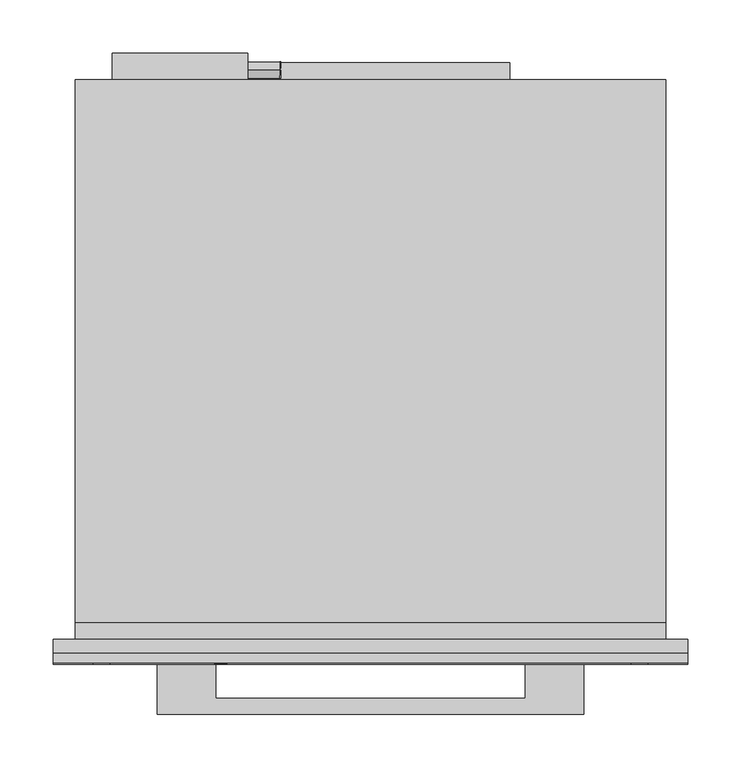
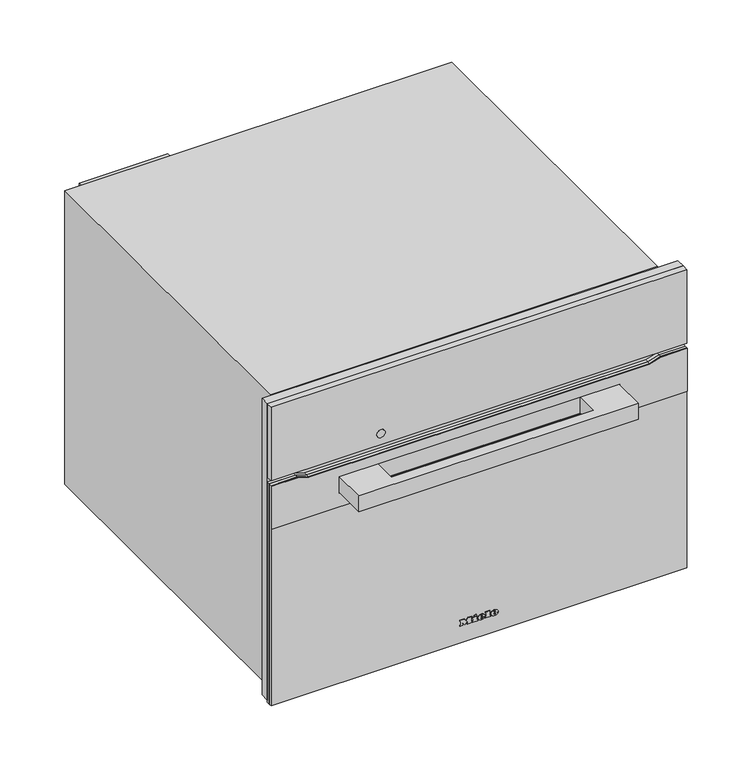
"""IFC4 building model written with IfcOpenShell, lengths in millimetres: proxy geometry, 11111220_CH_H7840BM_EDST-CLST : 22784046_CH_11111220_H7840BM_EDST-CLST."""

from ifc_helpers import new_model, si_unit, point, frame, frame_2d, origin, place, context, project, spatial, polyline, circle_curve, ellipse_curve, trimmed, segment, composite_curve, outline, extrude, faceted_brep, source, transform, mapped, element, save
from ifc_brep_helpers import plane_surface, cylinder_surface, revolved_surface, extruded_surface, advanced_brep


def specialty_equipment_4e50e9d8(model_context):
    return source(origin(), model_context, "Body", "SolidModel", [
        advanced_brep(
        [(21.28, -23.0, 32.133), (21.28, -23.0, 33.042), (27.301, -23.0, 33.042), (16.825, -23.0, 33.042), (19.3, -23.0, 30.0), (27.148, -23.0, 32.133), (24.43, -23.0, 32.133), (22.288, -23.0, 31.125), (21.28, -23.0, 34.194), (21.28, -23.0, 35.175), (22.819, -23.0, 35.175), (22.819, -23.0, 34.194), (21.28, -22.0, 32.133), (22.288, -22.0, 31.125), (24.43, -22.0, 32.133), (27.148, -22.0, 32.133), (19.3, -22.0, 30.0), (16.825, -22.0, 33.042), (27.301, -22.0, 33.042), (21.28, -22.0, 33.042), (21.28, -22.0, 34.194), (22.819, -22.0, 34.194), (22.819, -22.0, 35.175), (21.28, -22.0, 35.175)],
        [
            (0, 1),
            (1, 2),
            (2, 3, ellipse_curve(frame((22.063, -23.0, 33.042), z_axis=(0.0, -1.0, 0.0), x_axis=(-1.0, 0.0, 0.0)), 5.238, 4.329)),
            (3, 4, circle_curve(frame((20.3080491, -23.0, 33.348), z_axis=(0.0, -1.0, 0.0), x_axis=(0.0, 0.0, -1.0)), 3.4964649)),
            (4, 5, circle_curve(frame((21.9581428, -23.0, 35.724), z_axis=(0.0, -1.0, 0.0), x_axis=(0.0, 0.0, -1.0)), 6.3110933)),
            (5, 6),
            (6, 7, circle_curve(frame((22.7279412, -23.0, 32.97), z_axis=(0.0, 1.0, 0.0), x_axis=(0.0, 0.0, -1.0)), 1.896727)),
            (7, 0, circle_curve(frame((22.288, -23.0, 32.133), z_axis=(0.0, 1.0, 0.0), x_axis=(0.0, 0.0, -1.0)), 1.008)),
            (8, 9),
            (9, 10, circle_curve(frame((22.0495, -23.0, 35.175), z_axis=(0.0, 1.0, 0.0), x_axis=(0.0, 0.0, -1.0)), 0.7695)),
            (10, 11),
            (11, 8),
            (12, 13, circle_curve(frame((22.288, -22.0, 32.133), z_axis=(0.0, -1.0, 0.0), x_axis=(0.0, 0.0, -1.0)), 1.008)),
            (13, 14, circle_curve(frame((22.7279412, -22.0, 32.97), z_axis=(0.0, -1.0, 0.0), x_axis=(0.0, 0.0, -1.0)), 1.896727)),
            (14, 15),
            (15, 16, circle_curve(frame((21.9581428, -22.0, 35.724), z_axis=(0.0, 1.0, 0.0), x_axis=(0.0, 0.0, -1.0)), 6.3110933)),
            (16, 17, circle_curve(frame((20.3080491, -22.0, 33.348), z_axis=(0.0, 1.0, 0.0), x_axis=(0.0, 0.0, -1.0)), 3.4964649)),
            (17, 18, ellipse_curve(frame((22.063, -22.0, 33.042), z_axis=(0.0, 1.0, 0.0), x_axis=(-1.0, 0.0, 0.0)), 5.238, 4.329)),
            (18, 19),
            (19, 12),
            (20, 21),
            (21, 22),
            (22, 23, circle_curve(frame((22.0495, -22.0, 35.175), z_axis=(0.0, -1.0, 0.0), x_axis=(0.0, 0.0, -1.0)), 0.7695)),
            (23, 20),
            (0, 12),
            (19, 1),
            (18, 2),
            (5, 15),
            (14, 6),
            (17, 3),
            (13, 7),
            (16, 4),
            (8, 20),
            (23, 9),
            (22, 10),
            (21, 11),
        ],
        [
            plane_surface(frame((21.28, -23.0, 33.042), z_axis=(0.0, -1.0, 0.0), x_axis=(0.0, 0.0, 1.0))),
            plane_surface(frame((21.28, -22.0, 33.042), z_axis=(0.0, 1.0, 0.0), x_axis=(0.0, 0.0, -1.0))),
            plane_surface(frame((21.28, -23.0, 32.133), z_axis=(1.0, 0.0, 0.0), x_axis=(0.0, 1.0, 0.0))),
            plane_surface(frame((21.28, -23.0, 33.042), z_axis=(0.0, 0.0, -1.0), x_axis=(0.0, 1.0, 0.0))),
            plane_surface(frame((27.148, -23.0, 32.133), z_axis=(0.0, 0.0, 1.0), x_axis=(0.0, 1.0, 0.0))),
            extruded_surface(trimmed(ellipse_curve(frame((22.063, -21.0, 33.042), z_axis=(0.0, -1.0, 0.0), x_axis=(-1.0, 0.0, 0.0)), 5.238, 4.329), [point((27.301, -21.0, 33.042))], [point((16.825, -21.0, 33.042))], True, "CARTESIAN"), (0.0, -1.0, 0.0), 1.0),
            revolved_surface(polyline([(22.7279412, -22.0, 31.073273), (22.7279412, -23.0, 31.073273)]), (22.7279412, -22.0, 32.97), (0.0, 1.0, 0.0)),
            revolved_surface(polyline([(22.288, -22.0, 31.125000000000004), (22.288, -23.0, 31.125000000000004)]), (22.288, -22.0, 32.133), (0.0, 1.0, 0.0)),
            cylinder_surface(frame((20.3080491, -22.0, 33.348), z_axis=(0.0, -1.0, 0.0), x_axis=(0.0, 0.0, -1.0)), 3.4964649),
            cylinder_surface(frame((21.9581428, -22.0, 35.724), z_axis=(0.0, -1.0, 0.0), x_axis=(0.0, 0.0, -1.0)), 6.3110933),
            plane_surface(frame((21.28, -23.0, 34.194), z_axis=(1.0, 0.0, 0.0), x_axis=(0.0, 1.0, 0.0))),
            revolved_surface(polyline([(22.0495, -22.0, 34.405499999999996), (22.0495, -23.0, 34.405499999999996)]), (22.0495, -22.0, 35.175), (0.0, 1.0, 0.0)),
            plane_surface(frame((22.819, -23.0, 35.175), z_axis=(-1.0, 0.0, 0.0), x_axis=(0.0, 1.0, 0.0))),
            plane_surface(frame((22.819, -23.0, 34.194), z_axis=(0.0, 0.0, 1.0), x_axis=(0.0, 1.0, 0.0))),
        ],
        [
            (0, [[1, 2, 3, 4, 5, 6, 7, 8], [9, 10, 11, 12]]),
            (1, [[13, 14, 15, 16, 17, 18, 19, 20], [21, 22, 23, 24]]),
            (2, [[-1, 25, -20, 26]]),
            (3, [[-2, -26, -19, 27]]),
            (4, [[-6, 28, -15, 29]]),
            (5, [[-3, -27, -18, 30]]),
            (6, [[-7, -29, -14, 31]]),
            (7, [[-8, -31, -13, -25]]),
            (8, [[-4, -30, -17, 32]]),
            (9, [[-5, -32, -16, -28]]),
            (10, [[-9, 33, -24, 34]]),
            (11, [[-10, -34, -23, 35]]),
            (12, [[-11, -35, -22, 36]]),
            (13, [[-12, -36, -21, -33]]),
        ],
    ),
        advanced_brep(
        [(2.497, -23.0, 32.133), (2.497, -23.0, 33.042), (8.518, -23.0, 33.042), (-1.958, -23.0, 33.042), (0.517, -23.0, 30.0), (8.365, -23.0, 32.133), (5.647, -23.0, 32.133), (3.505, -23.0, 31.125), (2.497, -23.0, 34.194), (2.497, -23.0, 35.175), (4.036, -23.0, 35.175), (4.036, -23.0, 34.194), (2.497, -22.0, 32.133), (3.505, -22.0, 31.125), (5.647, -22.0, 32.133), (8.365, -22.0, 32.133), (0.517, -22.0, 30.0), (-1.958, -22.0, 33.042), (8.518, -22.0, 33.042), (2.497, -22.0, 33.042), (2.497, -22.0, 34.194), (4.036, -22.0, 34.194), (4.036, -22.0, 35.175), (2.497, -22.0, 35.175)],
        [
            (0, 1),
            (1, 2),
            (2, 3, ellipse_curve(frame((3.28, -23.0, 33.042), z_axis=(0.0, -1.0, 0.0), x_axis=(-1.0, 0.0, 0.0)), 5.238, 4.329)),
            (3, 4, circle_curve(frame((1.5250491, -23.0, 33.348), z_axis=(0.0, -1.0, 0.0), x_axis=(0.0, 0.0, -1.0)), 3.4964649)),
            (4, 5, circle_curve(frame((3.1751428, -23.0, 35.724), z_axis=(0.0, -1.0, 0.0), x_axis=(0.0, 0.0, -1.0)), 6.3110933)),
            (5, 6),
            (6, 7, circle_curve(frame((3.9449412, -23.0, 32.97), z_axis=(0.0, 1.0, 0.0), x_axis=(0.0, 0.0, -1.0)), 1.896727)),
            (7, 0, circle_curve(frame((3.505, -23.0, 32.133), z_axis=(0.0, 1.0, 0.0), x_axis=(0.0, 0.0, -1.0)), 1.008)),
            (8, 9),
            (9, 10, circle_curve(frame((3.2665, -23.0, 35.175), z_axis=(0.0, 1.0, 0.0), x_axis=(0.0, 0.0, -1.0)), 0.7695)),
            (10, 11),
            (11, 8),
            (12, 13, circle_curve(frame((3.505, -22.0, 32.133), z_axis=(0.0, -1.0, 0.0), x_axis=(0.0, 0.0, -1.0)), 1.008)),
            (13, 14, circle_curve(frame((3.9449412, -22.0, 32.97), z_axis=(0.0, -1.0, 0.0), x_axis=(0.0, 0.0, -1.0)), 1.896727)),
            (14, 15),
            (15, 16, circle_curve(frame((3.1751428, -22.0, 35.724), z_axis=(0.0, 1.0, 0.0), x_axis=(0.0, 0.0, -1.0)), 6.3110933)),
            (16, 17, circle_curve(frame((1.5250491, -22.0, 33.348), z_axis=(0.0, 1.0, 0.0), x_axis=(0.0, 0.0, -1.0)), 3.4964649)),
            (17, 18, ellipse_curve(frame((3.28, -22.0, 33.042), z_axis=(0.0, 1.0, 0.0), x_axis=(-1.0, 0.0, 0.0)), 5.238, 4.329)),
            (18, 19),
            (19, 12),
            (20, 21),
            (21, 22),
            (22, 23, circle_curve(frame((3.2665, -22.0, 35.175), z_axis=(0.0, -1.0, 0.0), x_axis=(0.0, 0.0, -1.0)), 0.7695)),
            (23, 20),
            (0, 12),
            (19, 1),
            (18, 2),
            (5, 15),
            (14, 6),
            (17, 3),
            (13, 7),
            (16, 4),
            (8, 20),
            (23, 9),
            (22, 10),
            (21, 11),
        ],
        [
            plane_surface(frame((2.497, -23.0, 33.042), z_axis=(0.0, -1.0, 0.0), x_axis=(0.0, 0.0, 1.0))),
            plane_surface(frame((2.497, -22.0, 33.042), z_axis=(0.0, 1.0, 0.0), x_axis=(0.0, 0.0, -1.0))),
            plane_surface(frame((2.497, -23.0, 32.133), z_axis=(1.0, 0.0, 0.0), x_axis=(0.0, 1.0, 0.0))),
            plane_surface(frame((2.497, -23.0, 33.042), z_axis=(0.0, 0.0, -1.0), x_axis=(0.0, 1.0, 0.0))),
            plane_surface(frame((8.365, -23.0, 32.133), z_axis=(0.0, 0.0, 1.0), x_axis=(0.0, 1.0, 0.0))),
            extruded_surface(trimmed(ellipse_curve(frame((3.28, -21.0, 33.042), z_axis=(0.0, -1.0, 0.0), x_axis=(-1.0, 0.0, 0.0)), 5.238, 4.329), [point((8.518, -21.0, 33.042))], [point((-1.958, -21.0, 33.042))], True, "CARTESIAN"), (0.0, -1.0, 0.0), 1.0),
            revolved_surface(polyline([(3.9449412, -22.0, 31.073273), (3.9449412, -23.0, 31.073273)]), (3.9449412, -22.0, 32.97), (0.0, 1.0, 0.0)),
            revolved_surface(polyline([(3.505, -22.0, 31.125000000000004), (3.505, -23.0, 31.125000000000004)]), (3.505, -22.0, 32.133), (0.0, 1.0, 0.0)),
            cylinder_surface(frame((1.5250491, -22.0, 33.348), z_axis=(0.0, -1.0, 0.0), x_axis=(0.0, 0.0, -1.0)), 3.4964649),
            cylinder_surface(frame((3.1751428, -22.0, 35.724), z_axis=(0.0, -1.0, 0.0), x_axis=(0.0, 0.0, -1.0)), 6.3110933),
            plane_surface(frame((2.497, -23.0, 34.194), z_axis=(1.0, 0.0, 0.0), x_axis=(0.0, 1.0, 0.0))),
            revolved_surface(polyline([(3.2665, -22.0, 34.405499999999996), (3.2665, -23.0, 34.405499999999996)]), (3.2665, -22.0, 35.175), (0.0, 1.0, 0.0)),
            plane_surface(frame((4.036, -23.0, 35.175), z_axis=(-1.0, 0.0, 0.0), x_axis=(0.0, 1.0, 0.0))),
            plane_surface(frame((4.036, -23.0, 34.194), z_axis=(0.0, 0.0, 1.0), x_axis=(0.0, 1.0, 0.0))),
        ],
        [
            (0, [[1, 2, 3, 4, 5, 6, 7, 8], [9, 10, 11, 12]]),
            (1, [[13, 14, 15, 16, 17, 18, 19, 20], [21, 22, 23, 24]]),
            (2, [[-1, 25, -20, 26]]),
            (3, [[-2, -26, -19, 27]]),
            (4, [[-6, 28, -15, 29]]),
            (5, [[-3, -27, -18, 30]]),
            (6, [[-7, -29, -14, 31]]),
            (7, [[-8, -31, -13, -25]]),
            (8, [[-4, -30, -17, 32]]),
            (9, [[-5, -32, -16, -28]]),
            (10, [[-9, 33, -24, 34]]),
            (11, [[-10, -34, -23, 35]]),
            (12, [[-11, -35, -22, 36]]),
            (13, [[-12, -36, -21, -33]]),
        ],
    ),
        extrude(outline(polyline([(38.469, -7.34), (37.011, -6.656), (38.433, -3.605), (39.891, -4.28), (38.469, -7.34)])), frame((0.0, -23.0, 0.0), z_axis=(0.0, 1.0, 0.0), x_axis=(0.0, 0.0, 1.0)), (0.0, 0.0, 1.0), 1.0),
        extrude(outline(polyline([(36.813, -9.563), (35.202, -9.563), (35.202, -8.492), (31.512, -8.492), (31.512, -9.563), (30.0, -9.563), (30.0, -2.462), (31.512, -2.462), (31.512, -3.506), (36.813, -3.506), (36.813, -9.563)])), frame((0.0, -23.0, 0.0), z_axis=(0.0, 1.0, 0.0), x_axis=(0.0, 0.0, 1.0)), (0.0, 0.0, 1.0), 1.0),
        extrude(outline(polyline([(37.533, 9.022), (37.533, 10.102), (31.512, 10.102), (31.512, 9.022), (30.0, 9.022), (30.0, 16.321), (31.512, 16.321), (31.512, 15.214), (39.0, 15.214), (39.0, 9.022), (37.533, 9.022)])), frame((0.0, -23.0, 0.0), z_axis=(0.0, 1.0, 0.0), x_axis=(0.0, 0.0, 1.0)), (0.0, 0.0, 1.0), 1.0),
        extrude(outline(polyline([(37.533, -27.5), (37.533, -26.411), (31.512, -26.411), (31.512, -27.5), (30.0, -27.5), (30.0, -23.54), (31.512, -23.54), (31.512, -24.62), (35.3341247, -24.62), (30.0, -20.597), (35.4402223, -16.556), (31.512, -16.556), (31.512, -17.663), (30.0, -17.663), (30.0, -10.481), (31.512, -10.481), (31.512, -11.624), (37.533, -11.624), (37.533, -10.481), (39.0, -10.481), (39.0, -15.962), (35.625, -18.59), (39.0, -21.227), (39.0, -27.5), (37.533, -27.5)])), frame((0.0, -23.0, 0.0), z_axis=(0.0, 1.0, 0.0), x_axis=(0.0, 0.0, 1.0)), (0.0, 0.0, 1.0), 1.0),
        extrude(outline(polyline([(-200.0, -70.3), (-200.0, -22.0), (-145.0, -22.0), (-145.0, -55.3), (145.0, -55.3), (145.0, -22.0), (200.0, -22.0), (200.0, -70.3), (-200.0, -70.3)])), frame((0.0, 0.0, 292.5), z_axis=(0.0, 0.0, 1.0), x_axis=(1.0, 0.0, 0.0)), (0.0, 0.0, 1.0), 24.0),
        extrude(outline(polyline([(337.0, -297.5), (4.0, -297.5), (4.0, 297.5), (337.0, 297.5), (337.0, 260.3542631), (332.0, 244.0), (332.0, -244.0), (337.0, -260.3542631), (337.0, -297.5)])), frame((0.0, -22.0, 0.0), z_axis=(0.0, 1.0, 0.0), x_axis=(0.0, 0.0, 1.0)), (0.0, 0.0, 1.0), 4.0),
        extrude(outline(polyline([(337.0, -297.5), (272.0, -297.5), (272.0, 297.5), (337.0, 297.5), (337.0, 260.3542631), (332.0, 244.0), (332.0, -244.0), (337.0, -260.3542631), (337.0, -297.5)]), holes=[polyline([(317.0, -200.5), (317.0, 200.5), (292.0, 200.5), (292.0, -200.5), (317.0, -200.5)])]), frame((0.0, -23.3, 0.0), z_axis=(0.0, 1.0, 0.0), x_axis=(0.0, 0.0, 1.0)), (0.0, 0.0, 1.0), 1.3),
        extrude(outline(polyline([(337.0, -297.5), (4.0, -297.5), (4.0, 297.5), (337.0, 297.5), (337.0, 260.3542631), (332.0, 244.0), (332.0, -244.0), (337.0, -260.3542631), (337.0, -297.5)])), frame((0.0, -18.0, 0.0), z_axis=(0.0, 1.0, 0.0), x_axis=(0.0, 0.0, 1.0)), (0.0, 0.0, 1.0), 5.0),
        extrude(outline(polyline([(297.5, -22.0), (-297.5, -22.0), (-297.5, -13.0), (297.5, -13.0), (297.5, -22.0)])), frame((0.0, 0.0, 344.0), z_axis=(0.0, 0.0, 1.0), x_axis=(1.0, 0.0, 0.0)), (0.0, 0.0, 1.0), 111.5),
        extrude(outline(composite_curve([segment(trimmed(circle_curve(frame_2d((361.0, -140.5745637)), 6.0), [point((361.0, -146.5745637))], [point((361.0, -134.5745637))], False, "CARTESIAN"), True, "CONTINUOUS"), segment(trimmed(circle_curve(frame_2d((361.0, -140.5745637)), 6.0), [point((361.0, -134.5745637))], [point((361.0, -146.5745637))], False, "CARTESIAN"), True, "CONTINUOUS")], self_intersect=False)), frame((0.0, -22.5, 0.0), z_axis=(0.0, 1.0, 0.0), x_axis=(0.0, 0.0, 1.0)), (0.0, 0.0, 1.0), 1.0),
        extrude(outline(polyline([(526.6176075, 348.0006785), (526.6176075, 358.0471554), (533.8434473, 358.0471554), (533.8434473, 356.7922128), (527.8818689, 356.7922128), (527.8818689, 353.8127064), (533.5308134, 353.8127064), (533.5308134, 352.551833), (527.8785103, 352.551833), (527.8785103, 349.2552921), (534.0086943, 349.2552921), (534.0086943, 348.0006785), (526.6176075, 348.0006785)])), frame((-85.0, 0.0, 0.0), z_axis=(1.0, 0.0, 0.0), x_axis=(0.0, 1.0, 0.0)), (0.0, 0.0, 1.0), 1.0),
        extrude(outline(polyline([(535.8834538, 348.0032098), (535.8834538, 358.0486697), (537.1384639, 358.0486697), (537.1384639, 349.2559157), (542.1633067, 349.2559157), (542.1633067, 348.0032098), (535.8834538, 348.0032098)])), frame((-85.0, 0.0, 0.0), z_axis=(1.0, 0.0, 0.0), x_axis=(0.0, 1.0, 0.0)), (0.0, 0.0, 1.0), 1.0),
        extrude(outline(composite_curve([segment(trimmed(circle_curve(frame_2d((534.0, 353.0)), 7.5), [point((534.0, 345.5))], [point((534.0, 360.5))], False, "CARTESIAN"), True, "CONTINUOUS"), segment(trimmed(circle_curve(frame_2d((534.0, 353.0)), 7.5), [point((534.0, 360.5))], [point((534.0, 345.5))], False, "CARTESIAN"), True, "CONTINUOUS")], self_intersect=False)), frame((-115.0, 0.0, 0.0), z_axis=(1.0, 0.0, 0.0), x_axis=(0.0, 1.0, 0.0)), (0.0, 0.0, 1.0), 30.0),
        extrude(outline(polyline([(-115.0, 525.0), (-242.0, 525.0), (-242.0, 550.0), (-115.0, 550.0), (-115.0, 525.0)])), frame((0.0, 0.0, 325.0), z_axis=(0.0, 0.0, 1.0), x_axis=(1.0, 0.0, 0.0)), (0.0, 0.0, 1.0), 103.0),
        extrude(outline(polyline([(130.5, 525.0), (-130.5, 525.0), (-130.5, 541.0), (130.5, 541.0), (130.5, 525.0)])), frame((0.0, 0.0, 36.0), z_axis=(0.0, 0.0, 1.0), x_axis=(1.0, 0.0, 0.0)), (0.0, 0.0, 1.0), 261.0),
        faceted_brep([(272.5, 17.0, 344.0), (-272.5, 17.0, 344.0), (-272.5, 17.0, 7.0), (272.5, 17.0, 7.0), (-230.0, 17.0, 295.0), (230.0, 17.0, 295.0), (230.0, 17.0, 60.0), (-230.0, 17.0, 60.0), (272.5, 0.0, 344.0), (-272.5, 0.0, 344.0), (-272.5, 0.0, 7.0), (272.5, 0.0, 7.0), (277.0, 0.0, 0.0), (277.0, 525.0, 0.0), (277.0, 525.0, 444.5), (277.0, 16.0, 444.5), (277.0, 16.0, 439.5), (277.0, 0.0, 439.5), (-277.0, 16.0, 444.5), (-277.0, 525.0, 444.5), (-277.0, 525.0, 0.0), (-277.0, 0.0, 0.0), (-277.0, 0.0, 439.5), (-277.0, 16.0, 439.5), (230.0, 412.0, 295.0), (-230.0, 412.0, 295.0), (-230.0, 412.0, 60.0), (230.0, 412.0, 60.0)], [[[0, 1, 2, 3], [4, 5, 6, 7]], [[1, 0, 8, 9]], [[2, 1, 9, 10]], [[0, 3, 11, 8]], [[12, 13, 14, 15, 16, 17]], [[18, 19, 20, 21, 22, 23]], [[13, 12, 21, 20]], [[14, 13, 20, 19]], [[15, 14, 19, 18]], [[21, 12, 17, 22], [9, 8, 11, 10]], [[24, 25, 26, 27]], [[25, 24, 5, 4]], [[26, 25, 4, 7]], [[27, 26, 7, 6]], [[24, 27, 6, 5]], [[3, 2, 10, 11]], [[16, 23, 22, 17]], [[23, 16, 15, 18]]]),
        extrude(outline(polyline([(7.0, 297.5), (455.5, 297.5), (455.5, -297.5), (7.0, -297.5), (7.0, -272.5), (344.0, -272.5), (344.0, 272.5), (7.0, 272.5), (7.0, 297.5)])), frame((0.0, -13.0, 0.0), z_axis=(0.0, 1.0, 0.0), x_axis=(0.0, 0.0, 1.0)), (0.0, 0.0, 1.0), 13.0),
    ])


if __name__ == "__main__":
    model = new_model("IFC4")
    model_context = context("Model", 3, world=origin())
    ifc_project = project(units=[si_unit("LENGTHUNIT", "METRE", prefix="MILLI")], contexts=[model_context])
    site = spatial("IfcSite", under=ifc_project)
    building = spatial("IfcBuilding", under=site)
    placement = place(None, origin())
    specialty_equipment_shape = specialty_equipment_4e50e9d8(model_context)
    element("IfcBuildingElementProxy", 1, Name="11111220_CH_H7840BM_EDST-CLST : 22784046_CH_11111220_H7840BM_EDST-CLST", ObjectType="11111220_CH_H7840BM_EDST-CLST : 22784046_CH_11111220_H7840BM_EDST-CLST", at=placement, inside=building, context=model_context, shape_type="MappedRepresentation", body=[
        mapped(specialty_equipment_shape, transform((0.0, 0.0, 0.0), x_axis=(1.0, 0.0, 0.0), y_axis=(0.0, 1.0, 0.0), z_axis=(0.0, 0.0, 1.0))),
    ])
    save(model, "model.ifc")
